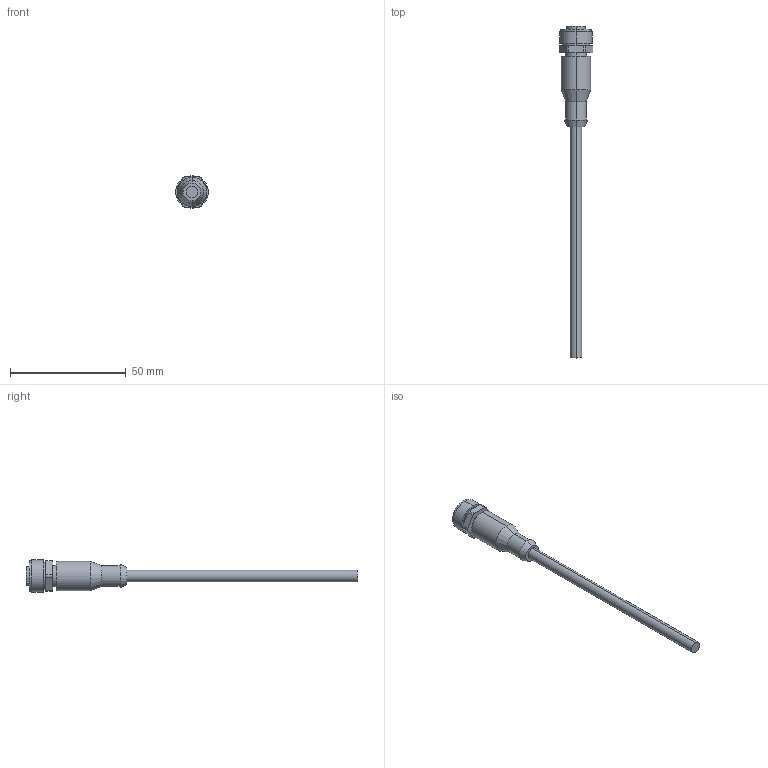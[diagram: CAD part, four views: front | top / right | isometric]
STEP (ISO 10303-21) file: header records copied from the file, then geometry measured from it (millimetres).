
FILE_DESCRIPTION (( 'STEP AP214' ), '1' );
FILE_NAME ('ZF_STEP_VF_CAxxDxM.step', '2024-11-13T10:19:56', ( '' ), ( '' ), 'SwSTEP 2.0', 'SolidWorks 2023', '' );
FILE_SCHEMA (( 'AUTOMOTIVE_DESIGN' ));
Length unit declared in the file: millimetre
Products named in the file (1): ZF_STEP_VF_CAxxDxM
Bounding box: 14.7 x 143.7 x 14 mm (x, y, z)
Volume: 6239 mm3; surface area: 3982.4 mm2
Topology: 1 solids, 1 shells, 48 faces, 107 edges, 70 vertices
Faces by surface type: cylinder 27, plane 17, cone 4
Entity records: 1380 total; most frequent: DIRECTION 263, CARTESIAN_POINT 226, ORIENTED_EDGE 214, AXIS2_PLACEMENT_3D 107, EDGE_CURVE 107, VERTEX_POINT 70, CIRCLE 58, EDGE_LOOP 57
